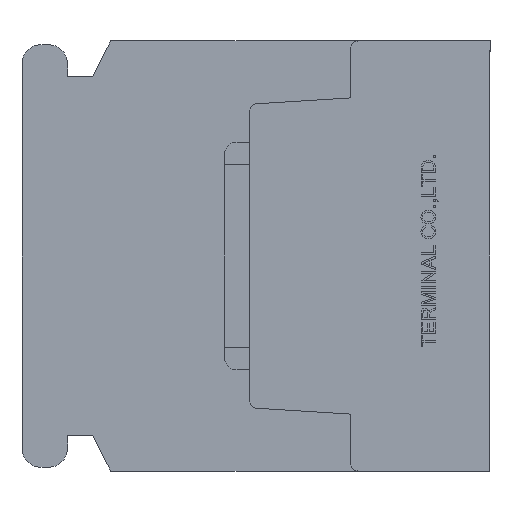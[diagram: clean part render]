
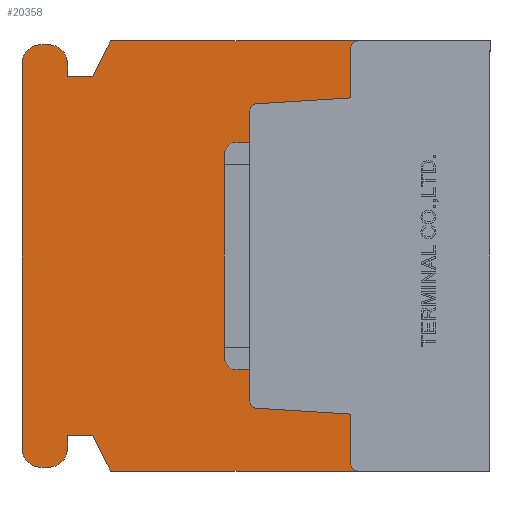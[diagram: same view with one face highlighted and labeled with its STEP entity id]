
A CAD part, left-side view. The second image highlights one B-rep face of the part: STEP entity #20358.
In plain terms, the highlighted planar face has unit normal (-1, 0, 0).
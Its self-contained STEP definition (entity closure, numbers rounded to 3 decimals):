
#1299=CIRCLE('',#21826,0.3);
#1301=CIRCLE('',#21830,0.3);
#1303=CIRCLE('',#21835,0.3);
#1305=CIRCLE('',#21838,0.3);
#1314=CIRCLE('',#21995,0.75);
#1315=CIRCLE('',#21996,0.75);
#1316=CIRCLE('',#21997,0.75);
#1317=CIRCLE('',#21998,0.75);
#1917=VERTEX_POINT('',#28903);
#1918=VERTEX_POINT('',#28905);
#1957=VERTEX_POINT('',#28987);
#1958=VERTEX_POINT('',#28989);
#2959=VERTEX_POINT('',#32415);
#2960=VERTEX_POINT('',#32416);
#2963=VERTEX_POINT('',#32424);
#2977=VERTEX_POINT('',#32454);
#2979=VERTEX_POINT('',#32460);
#2981=VERTEX_POINT('',#32466);
#2983=VERTEX_POINT('',#32472);
#2985=VERTEX_POINT('',#32481);
#3332=VERTEX_POINT('',#34023);
#3333=VERTEX_POINT('',#34025);
#3334=VERTEX_POINT('',#34027);
#3335=VERTEX_POINT('',#34029);
#3336=VERTEX_POINT('',#34031);
#3337=VERTEX_POINT('',#34033);
#3338=VERTEX_POINT('',#34035);
#3339=VERTEX_POINT('',#34037);
#3340=VERTEX_POINT('',#34039);
#3341=VERTEX_POINT('',#34041);
#3342=VERTEX_POINT('',#34043);
#3343=VERTEX_POINT('',#34045);
#4011=VECTOR('',#23126,1.);
#4052=VECTOR('',#23171,1.);
#5020=VECTOR('',#25906,1.);
#5037=VECTOR('',#25930,1.);
#5041=VECTOR('',#25941,1.);
#5044=VECTOR('',#25945,1.);
#5048=VECTOR('',#25962,1.);
#5461=VECTOR('',#26540,1.);
#5462=VECTOR('',#26541,1.);
#5463=VECTOR('',#26542,1.);
#5464=VECTOR('',#26545,1.);
#5465=VECTOR('',#26548,1.);
#5466=VECTOR('',#26551,1.);
#5467=VECTOR('',#26554,1.);
#5468=VECTOR('',#26555,1.);
#5469=VECTOR('',#26556,1.);
#6121=LINE('',#28904,#4011);
#6162=LINE('',#28988,#4052);
#7130=LINE('',#32414,#5020);
#7147=LINE('',#32453,#5037);
#7151=LINE('',#32465,#5041);
#7154=LINE('',#32471,#5044);
#7158=LINE('',#32486,#5048);
#7571=LINE('',#34022,#5461);
#7572=LINE('',#34024,#5462);
#7573=LINE('',#34026,#5463);
#7574=LINE('',#34030,#5464);
#7575=LINE('',#34034,#5465);
#7576=LINE('',#34038,#5466);
#7577=LINE('',#34042,#5467);
#7578=LINE('',#34044,#5468);
#7579=LINE('',#34046,#5469);
#8422=EDGE_CURVE('',#1917,#1918,#6121,.T.);
#8464=EDGE_CURVE('',#1957,#1958,#6162,.T.);
#9997=EDGE_CURVE('',#2959,#2960,#7130,.T.);
#10001=EDGE_CURVE('',#2963,#2959,#1299,.T.);
#10016=EDGE_CURVE('',#2977,#2963,#7147,.T.);
#10019=EDGE_CURVE('',#2979,#2977,#1301,.T.);
#10022=EDGE_CURVE('',#2981,#2979,#7151,.T.);
#10025=EDGE_CURVE('',#2983,#2981,#7154,.T.);
#10028=EDGE_CURVE('',#1918,#2983,#1303,.T.);
#10030=EDGE_CURVE('',#2985,#1957,#1305,.T.);
#10033=EDGE_CURVE('',#2960,#2985,#7158,.T.);
#10557=EDGE_CURVE('',#3332,#1917,#7571,.T.);
#10558=EDGE_CURVE('',#3333,#3332,#7572,.T.);
#10559=EDGE_CURVE('',#3334,#3333,#7573,.T.);
#10560=EDGE_CURVE('',#3335,#3334,#1314,.T.);
#10561=EDGE_CURVE('',#3336,#3335,#7574,.T.);
#10562=EDGE_CURVE('',#3337,#3336,#1315,.T.);
#10563=EDGE_CURVE('',#3338,#3337,#7575,.T.);
#10564=EDGE_CURVE('',#3339,#3338,#1316,.T.);
#10565=EDGE_CURVE('',#3340,#3339,#7576,.T.);
#10566=EDGE_CURVE('',#3341,#3340,#1317,.T.);
#10567=EDGE_CURVE('',#3342,#3341,#7577,.T.);
#10568=EDGE_CURVE('',#3343,#3342,#7578,.T.);
#10569=EDGE_CURVE('',#1958,#3343,#7579,.T.);
#16490=ORIENTED_EDGE('',*,*,#10028,.F.);
#16491=ORIENTED_EDGE('',*,*,#8422,.F.);
#16492=ORIENTED_EDGE('',*,*,#10557,.F.);
#16493=ORIENTED_EDGE('',*,*,#10558,.F.);
#16494=ORIENTED_EDGE('',*,*,#10559,.F.);
#16495=ORIENTED_EDGE('',*,*,#10560,.F.);
#16496=ORIENTED_EDGE('',*,*,#10561,.F.);
#16497=ORIENTED_EDGE('',*,*,#10562,.F.);
#16498=ORIENTED_EDGE('',*,*,#10563,.F.);
#16499=ORIENTED_EDGE('',*,*,#10564,.F.);
#16500=ORIENTED_EDGE('',*,*,#10565,.F.);
#16501=ORIENTED_EDGE('',*,*,#10566,.F.);
#16502=ORIENTED_EDGE('',*,*,#10567,.F.);
#16503=ORIENTED_EDGE('',*,*,#10568,.F.);
#16504=ORIENTED_EDGE('',*,*,#10569,.F.);
#16505=ORIENTED_EDGE('',*,*,#8464,.F.);
#16506=ORIENTED_EDGE('',*,*,#10030,.F.);
#16507=ORIENTED_EDGE('',*,*,#10033,.F.);
#16508=ORIENTED_EDGE('',*,*,#9997,.F.);
#16509=ORIENTED_EDGE('',*,*,#10001,.F.);
#16510=ORIENTED_EDGE('',*,*,#10016,.F.);
#16511=ORIENTED_EDGE('',*,*,#10019,.F.);
#16512=ORIENTED_EDGE('',*,*,#10022,.F.);
#16513=ORIENTED_EDGE('',*,*,#10025,.F.);
#17905=EDGE_LOOP('',(#16490,#16491,#16492,#16493,#16494,#16495,#16496,#16497,
#16498,#16499,#16500,#16501,#16502,#16503,#16504,#16505,#16506,#16507,#16508,
#16509,#16510,#16511,#16512,#16513));
#19197=FACE_BOUND('',#17905,.T.);
#20358=ADVANCED_FACE('',(#19197),#34984,.F.);
#21826=AXIS2_PLACEMENT_3D('',#32423,#25912,#25913);
#21830=AXIS2_PLACEMENT_3D('',#32459,#25935,#25936);
#21835=AXIS2_PLACEMENT_3D('',#32477,#25950,#25951);
#21838=AXIS2_PLACEMENT_3D('',#32480,#25956,#25957);
#21994=AXIS2_PLACEMENT_3D('',#34021,#26539,$);
#21995=AXIS2_PLACEMENT_3D('',#34028,#26543,#26544);
#21996=AXIS2_PLACEMENT_3D('',#34032,#26546,#26547);
#21997=AXIS2_PLACEMENT_3D('',#34036,#26549,#26550);
#21998=AXIS2_PLACEMENT_3D('',#34040,#26552,#26553);
#23126=DIRECTION('',(0.,-1.,0.));
#23171=DIRECTION('',(0.,1.,0.));
#25906=DIRECTION('',(0.,-0.998,-0.062));
#25912=DIRECTION('',(-1.,0.,0.));
#25913=DIRECTION('',(0.,0.,-0.3));
#25930=DIRECTION('',(0.,0.,-1.));
#25935=DIRECTION('',(-1.,0.,0.));
#25936=DIRECTION('',(0.,0.,-0.3));
#25941=DIRECTION('',(0.,0.998,-0.062));
#25945=DIRECTION('',(0.,0.,-1.));
#25950=DIRECTION('',(-1.,0.,0.));
#25951=DIRECTION('',(0.,0.,-0.3));
#25956=DIRECTION('',(-1.,0.,0.));
#25957=DIRECTION('',(0.,0.,-0.3));
#25962=DIRECTION('',(0.,0.,-1.));
#26539=DIRECTION('',(1.,0.,0.));
#26540=DIRECTION('',(0.,-0.447,0.894));
#26541=DIRECTION('',(0.,-1.,0.));
#26542=DIRECTION('',(0.,0.,-1.));
#26543=DIRECTION('',(1.,0.,0.));
#26544=DIRECTION('',(0.,0.,-0.75));
#26545=DIRECTION('',(0.,-1.,0.));
#26546=DIRECTION('',(1.,0.,0.));
#26547=DIRECTION('',(0.,0.,-0.75));
#26548=DIRECTION('',(0.,0.,1.));
#26549=DIRECTION('',(1.,0.,0.));
#26550=DIRECTION('',(0.,0.,-0.75));
#26551=DIRECTION('',(0.,1.,0.));
#26552=DIRECTION('',(1.,0.,0.));
#26553=DIRECTION('',(0.,0.,-0.75));
#26554=DIRECTION('',(0.,0.,-1.));
#26555=DIRECTION('',(0.,1.,0.));
#26556=DIRECTION('',(0.,0.447,0.894));
#28903=CARTESIAN_POINT('',(0.,15.,8.5));
#28904=CARTESIAN_POINT('',(0.,15.,8.5));
#28905=CARTESIAN_POINT('',(0.,5.2,8.5));
#28987=CARTESIAN_POINT('',(0.,5.2,-8.5));
#28988=CARTESIAN_POINT('',(0.,0.,-8.5));
#28989=CARTESIAN_POINT('',(0.,15.,-8.5));
#32414=CARTESIAN_POINT('',(0.,9.219,-6.018));
#32415=CARTESIAN_POINT('',(0.,9.219,-6.018));
#32416=CARTESIAN_POINT('',(0.,5.5,-6.25));
#32423=CARTESIAN_POINT('',(0.,9.2,-5.718));
#32424=CARTESIAN_POINT('',(0.,9.5,-5.718));
#32453=CARTESIAN_POINT('',(0.,9.5,5.718));
#32454=CARTESIAN_POINT('',(0.,9.5,5.718));
#32459=CARTESIAN_POINT('',(0.,9.2,5.718));
#32460=CARTESIAN_POINT('',(0.,9.219,6.018));
#32465=CARTESIAN_POINT('',(0.,5.5,6.25));
#32466=CARTESIAN_POINT('',(0.,5.5,6.25));
#32471=CARTESIAN_POINT('',(0.,5.5,8.2));
#32472=CARTESIAN_POINT('',(0.,5.5,8.2));
#32477=CARTESIAN_POINT('',(0.,5.2,8.2));
#32480=CARTESIAN_POINT('',(0.,5.2,-8.2));
#32481=CARTESIAN_POINT('',(0.,5.5,-8.2));
#32486=CARTESIAN_POINT('',(0.,5.5,-6.25));
#34021=CARTESIAN_POINT('',(0.,9.463,0.));
#34022=CARTESIAN_POINT('',(0.,15.7,7.1));
#34023=CARTESIAN_POINT('',(0.,15.7,7.1));
#34024=CARTESIAN_POINT('',(0.,16.7,7.1));
#34025=CARTESIAN_POINT('',(0.,16.7,7.1));
#34026=CARTESIAN_POINT('',(0.,16.7,7.6));
#34027=CARTESIAN_POINT('',(0.,16.7,7.6));
#34028=CARTESIAN_POINT('',(0.,17.45,7.6));
#34029=CARTESIAN_POINT('',(0.,17.45,8.35));
#34030=CARTESIAN_POINT('',(0.,17.75,8.35));
#34031=CARTESIAN_POINT('',(0.,17.75,8.35));
#34032=CARTESIAN_POINT('',(0.,17.75,7.6));
#34033=CARTESIAN_POINT('',(0.,18.5,7.6));
#34034=CARTESIAN_POINT('',(0.,18.5,-7.6));
#34035=CARTESIAN_POINT('',(0.,18.5,-7.6));
#34036=CARTESIAN_POINT('',(0.,17.75,-7.6));
#34037=CARTESIAN_POINT('',(0.,17.75,-8.35));
#34038=CARTESIAN_POINT('',(0.,17.45,-8.35));
#34039=CARTESIAN_POINT('',(0.,17.45,-8.35));
#34040=CARTESIAN_POINT('',(0.,17.45,-7.6));
#34041=CARTESIAN_POINT('',(0.,16.7,-7.6));
#34042=CARTESIAN_POINT('',(0.,16.7,-7.1));
#34043=CARTESIAN_POINT('',(0.,16.7,-7.1));
#34044=CARTESIAN_POINT('',(0.,15.7,-7.1));
#34045=CARTESIAN_POINT('',(0.,15.7,-7.1));
#34046=CARTESIAN_POINT('',(0.,15.,-8.5));
#34984=PLANE('',#21994);
